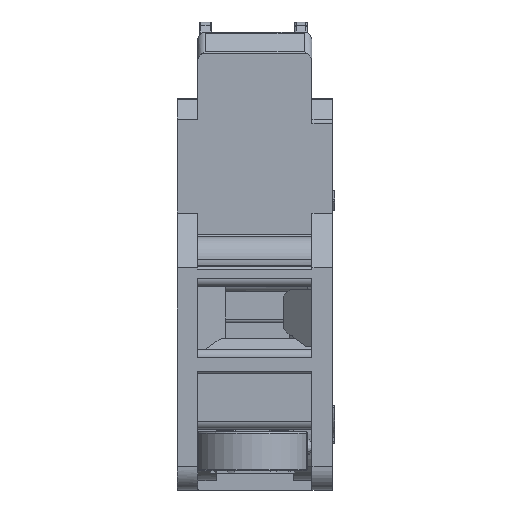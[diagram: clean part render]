
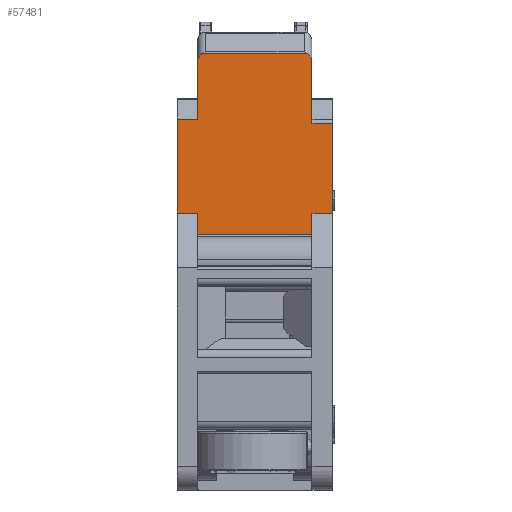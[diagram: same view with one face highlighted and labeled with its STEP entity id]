
A CAD part, left-side view. The second image highlights one B-rep face of the part: STEP entity #57481.
In plain terms, the highlighted planar face has unit normal (-1, 0, 0).
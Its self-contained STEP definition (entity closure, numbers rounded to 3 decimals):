
#612 = CARTESIAN_POINT ( 'NONE',  ( -22.144, 9.331, 32.054 ) ) ;
#1838 = ORIENTED_EDGE ( 'NONE', *, *, #43180, .T. ) ;
#1907 = CARTESIAN_POINT ( 'NONE',  ( -22.144, 7.771, 26.054 ) ) ;
#1925 = EDGE_CURVE ( 'NONE', #44722, #26853, #2598, .T. ) ;
#2067 = ORIENTED_EDGE ( 'NONE', *, *, #37848, .F. ) ;
#2428 = CARTESIAN_POINT ( 'NONE',  ( -22.147, 9.476, 36.12 ) ) ;
#2598 = LINE ( 'NONE', #1907, #52066 ) ;
#3769 = CARTESIAN_POINT ( 'NONE',  ( -22.144, 16.631, 32.054 ) ) ;
#5557 = DIRECTION ( 'NONE',  ( 0., 0., -1. ) ) ;
#5641 = CARTESIAN_POINT ( 'NONE',  ( -22.144, 16.535, 36.026 ) ) ;
#5660 = DIRECTION ( 'NONE',  ( -1., 0., 0. ) ) ;
#6315 = CARTESIAN_POINT ( 'NONE',  ( -22.144, 16.404, 36.203 ) ) ;
#6995 = CARTESIAN_POINT ( 'NONE',  ( -22.144, 12.981, 32.054 ) ) ;
#7094 = CARTESIAN_POINT ( 'NONE',  ( -22.144, 9.594, 36.231 ) ) ;
#7108 = VECTOR ( 'NONE', #54501, 1000. ) ;
#8254 = VECTOR ( 'NONE', #56148, 1000. ) ;
#9695 = B_SPLINE_CURVE_WITH_KNOTS ( 'NONE', 3,
 ( #7094, #37782, #2428, #32071, #11476, #27024 ),
 .UNSPECIFIED., .F., .F.,
 ( 4, 2, 4 ),
 ( 0., 0.5, 1. ),
 .UNSPECIFIED. ) ;
#10619 = EDGE_CURVE ( 'NONE', #45505, #42110, #9695, .T. ) ;
#10719 = ORIENTED_EDGE ( 'NONE', *, *, #19896, .T. ) ;
#11352 = CARTESIAN_POINT ( 'NONE',  ( -22.144, 16.368, 36.231 ) ) ;
#11476 = CARTESIAN_POINT ( 'NONE',  ( -22.144, 9.331, 35.777 ) ) ;
#12949 = VERTEX_POINT ( 'NONE', #30104 ) ;
#14200 = CARTESIAN_POINT ( 'NONE',  ( -22.144, 16.368, 36.231 ) ) ;
#14262 = AXIS2_PLACEMENT_3D ( 'NONE', #6995, #5660, #52848 ) ;
#14586 = EDGE_LOOP ( 'NONE', ( #10719, #41915, #41202, #26427, #64826, #43295, #14858, #1838, #27298, #36554, #2067, #23441, #15429, #34522 ) ) ;
#14721 = CARTESIAN_POINT ( 'NONE',  ( -22.144, 17.931, 32.054 ) ) ;
#14858 = ORIENTED_EDGE ( 'NONE', *, *, #17649, .T. ) ;
#15277 = CARTESIAN_POINT ( 'NONE',  ( -22.144, 9.331, 32.054 ) ) ;
#15429 = ORIENTED_EDGE ( 'NONE', *, *, #30912, .T. ) ;
#15519 = DIRECTION ( 'NONE',  ( 0., 0., -1. ) ) ;
#16397 = CARTESIAN_POINT ( 'NONE',  ( -22.144, 8.031, 26.054 ) ) ;
#16461 = FACE_OUTER_BOUND ( 'NONE', #14586, .T. ) ;
#17649 = EDGE_CURVE ( 'NONE', #26378, #57596, #55293, .T. ) ;
#18110 = CARTESIAN_POINT ( 'NONE',  ( -22.144, 9.331, 31.754 ) ) ;
#18139 = DIRECTION ( 'NONE',  ( 0., 0., -1. ) ) ;
#19170 = VECTOR ( 'NONE', #21982, 1000. ) ;
#19895 = CARTESIAN_POINT ( 'NONE',  ( -22.144, 9.331, 35.611 ) ) ;
#19896 = EDGE_CURVE ( 'NONE', #45505, #63236, #59572, .T. ) ;
#20833 = EDGE_CURVE ( 'NONE', #37633, #12949, #61231, .T. ) ;
#21709 = EDGE_CURVE ( 'NONE', #12949, #26378, #38461, .T. ) ;
#21982 = DIRECTION ( 'NONE',  ( 0., -1., 0. ) ) ;
#22466 = DIRECTION ( 'NONE',  ( 0., 1., 0. ) ) ;
#23441 = ORIENTED_EDGE ( 'NONE', *, *, #51274, .T. ) ;
#23702 = CARTESIAN_POINT ( 'NONE',  ( -22.144, 9.331, 26.054 ) ) ;
#25062 = VERTEX_POINT ( 'NONE', #45894 ) ;
#25392 = LINE ( 'NONE', #15277, #26422 ) ;
#26378 = VERTEX_POINT ( 'NONE', #62933 ) ;
#26422 = VECTOR ( 'NONE', #47278, 1000. ) ;
#26427 = ORIENTED_EDGE ( 'NONE', *, *, #58692, .T. ) ;
#26722 = EDGE_CURVE ( 'NONE', #58124, #26853, #25392, .T. ) ;
#26814 = CARTESIAN_POINT ( 'NONE',  ( -22.144, 16.631, 32.054 ) ) ;
#26853 = VERTEX_POINT ( 'NONE', #23702 ) ;
#27024 = CARTESIAN_POINT ( 'NONE',  ( -22.144, 9.331, 35.611 ) ) ;
#27298 = ORIENTED_EDGE ( 'NONE', *, *, #26722, .T. ) ;
#27547 = DIRECTION ( 'NONE',  ( 0., 1., 0. ) ) ;
#27573 = EDGE_CURVE ( 'NONE', #56244, #63236, #65261, .T. ) ;
#28980 = CARTESIAN_POINT ( 'NONE',  ( -22.144, 16.631, 32.054 ) ) ;
#29770 = CARTESIAN_POINT ( 'NONE',  ( -22.144, 12.981, 32.054 ) ) ;
#30104 = CARTESIAN_POINT ( 'NONE',  ( -22.144, 17.931, 26.054 ) ) ;
#30912 = EDGE_CURVE ( 'NONE', #65549, #42110, #38009, .T. ) ;
#31948 = CARTESIAN_POINT ( 'NONE',  ( -22.144, 16.489, 36.104 ) ) ;
#32071 = CARTESIAN_POINT ( 'NONE',  ( -22.148, 9.372, 35.915 ) ) ;
#32621 = LINE ( 'NONE', #18110, #52468 ) ;
#33972 = CARTESIAN_POINT ( 'NONE',  ( -22.144, 12.981, 36.231 ) ) ;
#34522 = ORIENTED_EDGE ( 'NONE', *, *, #10619, .F. ) ;
#35363 = CARTESIAN_POINT ( 'NONE',  ( -22.144, 17.931, 32.054 ) ) ;
#36554 = ORIENTED_EDGE ( 'NONE', *, *, #1925, .F. ) ;
#37099 = VECTOR ( 'NONE', #63270, 1000. ) ;
#37633 = VERTEX_POINT ( 'NONE', #35363 ) ;
#37674 = LINE ( 'NONE', #58232, #62028 ) ;
#37782 = CARTESIAN_POINT ( 'NONE',  ( -22.144, 9.539, 36.189 ) ) ;
#37848 = EDGE_CURVE ( 'NONE', #25062, #44722, #37674, .T. ) ;
#38009 = LINE ( 'NONE', #612, #37099 ) ;
#38461 = LINE ( 'NONE', #65061, #48149 ) ;
#41202 = ORIENTED_EDGE ( 'NONE', *, *, #48372, .T. ) ;
#41376 = CARTESIAN_POINT ( 'NONE',  ( -22.145, 16.589, 35.907 ) ) ;
#41915 = ORIENTED_EDGE ( 'NONE', *, *, #27573, .F. ) ;
#42110 = VERTEX_POINT ( 'NONE', #19895 ) ;
#42624 = LINE ( 'NONE', #26814, #44842 ) ;
#43180 = EDGE_CURVE ( 'NONE', #57596, #58124, #52639, .T. ) ;
#43295 = ORIENTED_EDGE ( 'NONE', *, *, #21709, .T. ) ;
#44516 = DIRECTION ( 'NONE',  ( 0., -1., 0. ) ) ;
#44722 = VERTEX_POINT ( 'NONE', #16397 ) ;
#44842 = VECTOR ( 'NONE', #5557, 1000. ) ;
#45505 = VERTEX_POINT ( 'NONE', #56650 ) ;
#45894 = CARTESIAN_POINT ( 'NONE',  ( -22.144, 8.031, 31.754 ) ) ;
#47107 = CARTESIAN_POINT ( 'NONE',  ( -22.144, 16.439, 36.168 ) ) ;
#47278 = DIRECTION ( 'NONE',  ( 0., 0., 1. ) ) ;
#47588 = CARTESIAN_POINT ( 'NONE',  ( -22.144, 12.981, 24.679 ) ) ;
#47764 = CARTESIAN_POINT ( 'NONE',  ( -22.144, 16.526, 36.042 ) ) ;
#48149 = VECTOR ( 'NONE', #44516, 1000. ) ;
#48372 = EDGE_CURVE ( 'NONE', #56244, #61397, #42624, .T. ) ;
#51274 = EDGE_CURVE ( 'NONE', #25062, #65549, #32621, .T. ) ;
#51497 = CARTESIAN_POINT ( 'NONE',  ( -22.144, 16.631, 35.78 ) ) ;
#51835 = CARTESIAN_POINT ( 'NONE',  ( -22.144, 16.544, 36.008 ) ) ;
#52066 = VECTOR ( 'NONE', #22466, 1000. ) ;
#52146 = CARTESIAN_POINT ( 'NONE',  ( -22.144, 16.504, 36.08 ) ) ;
#52468 = VECTOR ( 'NONE', #27547, 1000. ) ;
#52639 = LINE ( 'NONE', #47588, #19170 ) ;
#52848 = DIRECTION ( 'NONE',  ( 0., 0., 1. ) ) ;
#54501 = DIRECTION ( 'NONE',  ( 0., 1., 0. ) ) ;
#54721 = VECTOR ( 'NONE', #56028, 1000. ) ;
#55293 = LINE ( 'NONE', #3769, #56048 ) ;
#55649 = CARTESIAN_POINT ( 'NONE',  ( -22.144, 16.631, 35.611 ) ) ;
#56028 = DIRECTION ( 'NONE',  ( 0., 1., 0. ) ) ;
#56048 = VECTOR ( 'NONE', #15519, 1000. ) ;
#56148 = DIRECTION ( 'NONE',  ( 0., 0., -1. ) ) ;
#56244 = VERTEX_POINT ( 'NONE', #55649 ) ;
#56531 = CARTESIAN_POINT ( 'NONE',  ( -22.144, 16.631, 35.611 ) ) ;
#56650 = CARTESIAN_POINT ( 'NONE',  ( -22.144, 9.594, 36.231 ) ) ;
#56872 = CARTESIAN_POINT ( 'NONE',  ( -22.144, 16.548, 35.999 ) ) ;
#56992 = CARTESIAN_POINT ( 'NONE',  ( -22.144, 9.331, 24.679 ) ) ;
#57481 = ADVANCED_FACE ( 'NONE', ( #16461 ), #62309, .T. ) ;
#57596 = VERTEX_POINT ( 'NONE', #58915 ) ;
#58124 = VERTEX_POINT ( 'NONE', #56992 ) ;
#58232 = CARTESIAN_POINT ( 'NONE',  ( -22.144, 8.031, 32.054 ) ) ;
#58692 = EDGE_CURVE ( 'NONE', #61397, #37633, #61106, .T. ) ;
#58915 = CARTESIAN_POINT ( 'NONE',  ( -22.144, 16.631, 24.679 ) ) ;
#59572 = LINE ( 'NONE', #33972, #7108 ) ;
#61106 = LINE ( 'NONE', #29770, #54721 ) ;
#61208 = CARTESIAN_POINT ( 'NONE',  ( -22.144, 9.331, 31.754 ) ) ;
#61231 = LINE ( 'NONE', #14721, #8254 ) ;
#61397 = VERTEX_POINT ( 'NONE', #28980 ) ;
#62028 = VECTOR ( 'NONE', #18139, 1000. ) ;
#62309 = PLANE ( 'NONE',  #14262 ) ;
#62933 = CARTESIAN_POINT ( 'NONE',  ( -22.144, 16.631, 26.054 ) ) ;
#63236 = VERTEX_POINT ( 'NONE', #14200 ) ;
#63270 = DIRECTION ( 'NONE',  ( 0., 0., 1. ) ) ;
#64826 = ORIENTED_EDGE ( 'NONE', *, *, #20833, .T. ) ;
#65061 = CARTESIAN_POINT ( 'NONE',  ( -22.144, 16.371, 26.054 ) ) ;
#65261 = B_SPLINE_CURVE_WITH_KNOTS ( 'NONE', 3,
 ( #56531, #51497, #41376, #56872, #51835, #5641, #47764, #52146, #31948, #47107, #6315, #11352 ),
 .UNSPECIFIED., .F., .F.,
 ( 4, 2, 2, 2, 2, 4 ),
 ( 0., 0.5, 0.562, 0.625, 0.75, 1. ),
 .UNSPECIFIED. ) ;
#65549 = VERTEX_POINT ( 'NONE', #61208 ) ;
